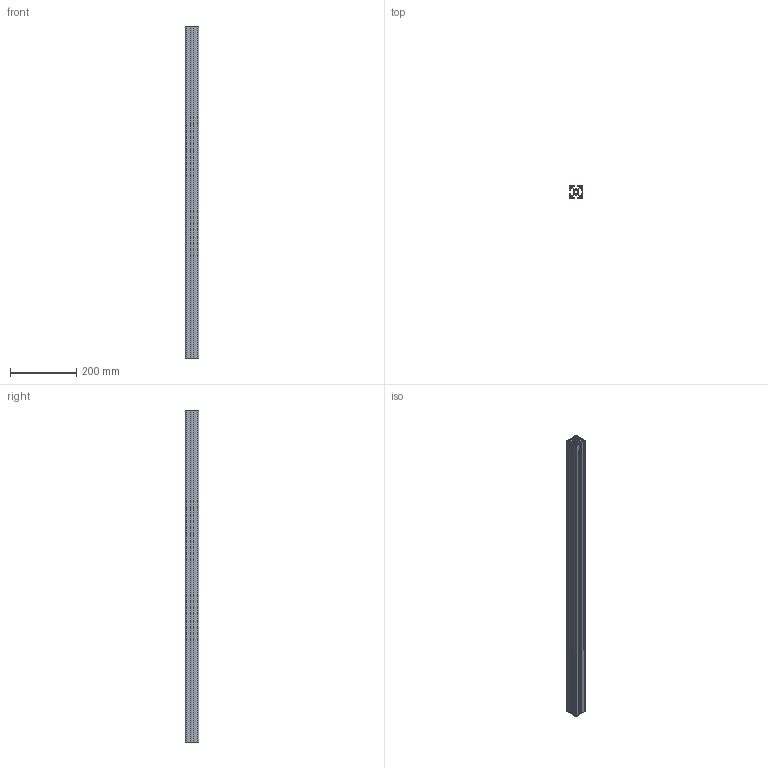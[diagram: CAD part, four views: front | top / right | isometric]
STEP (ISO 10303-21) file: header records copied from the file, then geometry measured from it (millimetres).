
FILE_DESCRIPTION(/* description */ ('PK4040_C'),/* implementation_level */ '2;1');
FILE_NAME(/* name */ 'PK4040C_CATALOGO.stp',/* time_stamp */ '2024-06-10T10:05:32+02:00',/* author */ ('simone.marchiondo'),/* organization */ (''),/* preprocessor_version */ 'ST-DEVELOPER v20',/* originating_system */ 'Autodesk Inventor 2024',/* authorisation */ '');
FILE_SCHEMA (('AUTOMOTIVE_DESIGN { 1 0 10303 214 3 1 1 }'));
Length unit declared in the file: millimetre
Products named in the file (1): PK4040C_CATALOGO
Bounding box: 40 x 40 x 1000 mm (x, y, z)
Volume: 583200.5 mm3; surface area: 526946.2 mm2
Topology: 1 solids, 1 shells, 190 faces, 564 edges, 376 vertices
Faces by surface type: cylinder 113, plane 77
Entity records: 6521 total; most frequent: DIRECTION 1172, CARTESIAN_POINT 1131, ORIENTED_EDGE 1128, EDGE_CURVE 564, AXIS2_PLACEMENT_3D 417, VERTEX_POINT 376, LINE 338, VECTOR 338
